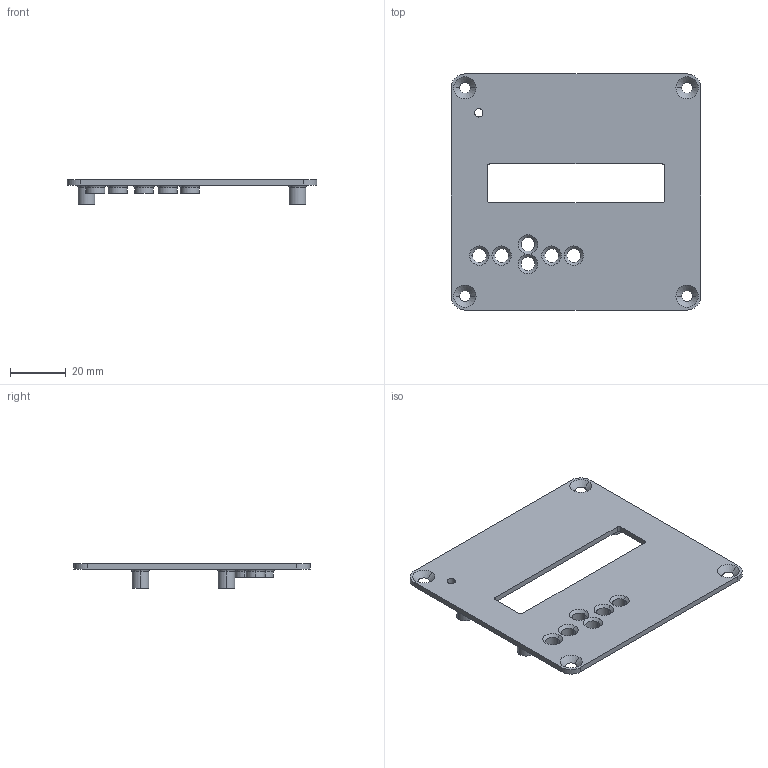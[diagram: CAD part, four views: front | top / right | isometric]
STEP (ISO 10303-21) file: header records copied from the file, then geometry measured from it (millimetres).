
FILE_DESCRIPTION (( 'STEP AP214' ), '1' );
FILE_NAME ('Ïåðåäíÿÿ êðûøêà.STEP', '2021-11-10T11:28:45', ( 'j03075@gmail.com' ), ( '' ), 'SwSTEP 2.0', 'SolidWorks 2021', '' );
FILE_SCHEMA (( 'AUTOMOTIVE_DESIGN' ));
Length unit declared in the file: millimetre
Products named in the file (1): Ïåðåäíÿÿ êðûøêà
Bounding box: 90 x 85 x 9 mm (x, y, z)
Volume: 13929.5 mm3; surface area: 15661.4 mm2
Topology: 1 solids, 1 shells, 114 faces, 271 edges, 169 vertices
Faces by surface type: cylinder 50, plane 24, torus 20, cone 20
Entity records: 3462 total; most frequent: DIRECTION 668, CARTESIAN_POINT 598, ORIENTED_EDGE 542, AXIS2_PLACEMENT_3D 287, EDGE_CURVE 271, CIRCLE 172, VERTEX_POINT 169, EDGE_LOOP 148
